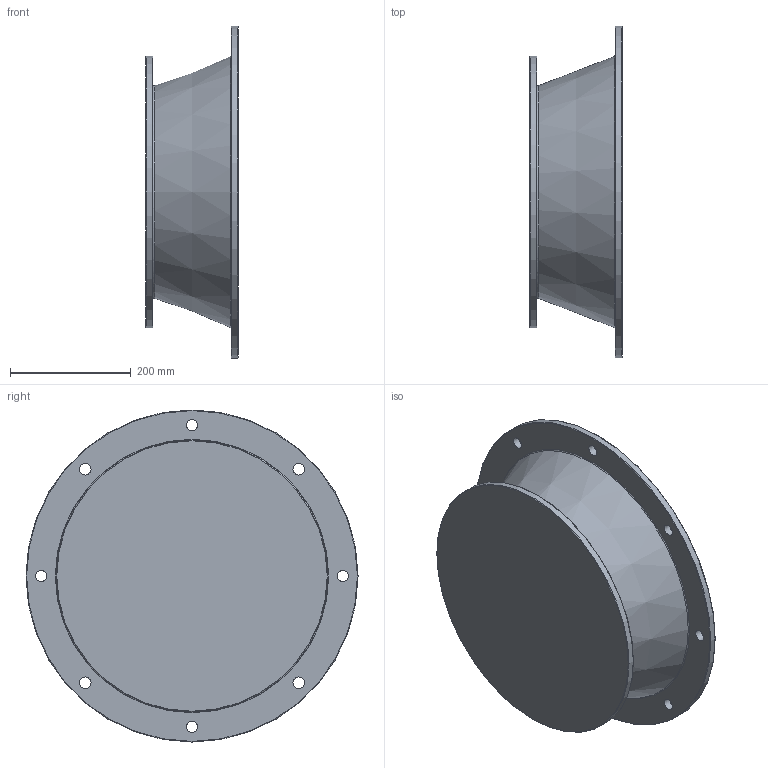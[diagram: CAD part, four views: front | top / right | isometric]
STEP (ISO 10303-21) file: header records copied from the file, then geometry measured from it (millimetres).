
FILE_DESCRIPTION((''),'2;1');
FILE_NAME('C:\Users\oem\Desktop\PAWEŁ\12 PRYWATNE\DualSystem\001 Modele\DKAB120_\DK_120_STEP\250M_B5_L153,5.stp','2011-12-14T16:17:34',('oem'),(''),'Autodesk Inventor 2009','Autodesk Inventor 2009','');
FILE_SCHEMA(('AUTOMOTIVE_DESIGN { 1 0 10303 214 1 1 1 1 }'));
Length unit declared in the file: millimetre
Products named in the file (1): 250M_B5_L153,5
Bounding box: 153.5 x 550 x 550 mm (x, y, z)
Volume: 4420193.3 mm3; surface area: 938262.9 mm2
Topology: 1 solids, 1 shells, 34 faces, 70 edges, 44 vertices
Faces by surface type: plane 11, bspline 10, cylinder 6, torus 5, cone 2
Full cylindrical faces by diameter (mm): 90 x1, 437.137 x1, 450 x2, 550 x1
Entity records: 1083 total; most frequent: CARTESIAN_POINT 369, DIRECTION 136, ORIENTED_EDGE 96, EDGE_LOOP 78, AXIS2_PLACEMENT_3D 63, EDGE_CURVE 48, VERTEX_POINT 44, FACE_BOUND 44
